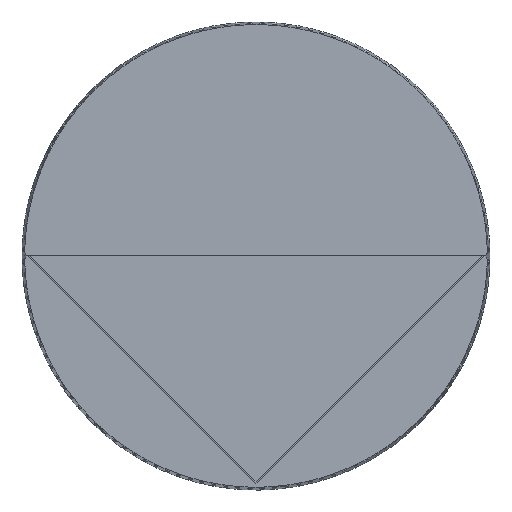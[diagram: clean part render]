
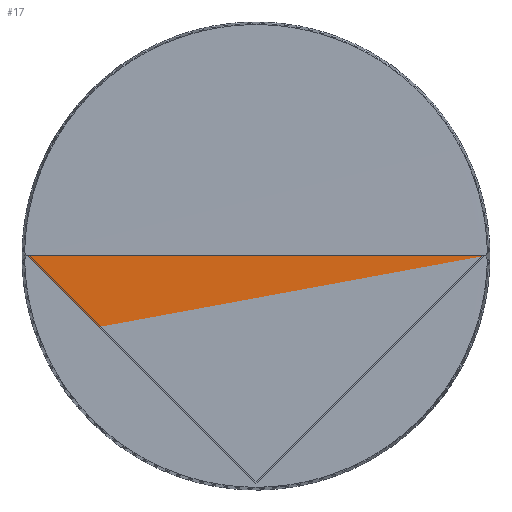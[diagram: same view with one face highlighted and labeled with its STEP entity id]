
A CAD part, top view. The second image highlights one B-rep face of the part: STEP entity #17.
In plain terms, the highlighted free-form (B-spline) face has degree [3, 2] with [4, 5] control points.
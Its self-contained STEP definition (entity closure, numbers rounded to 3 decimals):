
#17=ADVANCED_FACE('',(#1000),#18107,.T.);
#1000=FACE_OUTER_BOUND('',#1983,.T.);
#1983=EDGE_LOOP('',(#2974,#2975,#2976,#2977));
#2974=ORIENTED_EDGE('',*,*,#9275,.F.);
#2975=ORIENTED_EDGE('',*,*,#9270,.T.);
#2976=ORIENTED_EDGE('',*,*,#9276,.T.);
#2977=ORIENTED_EDGE('',*,*,#12405,.F.);
#9270=EDGE_CURVE('',#15575,#15574,#14700,.T.);
#9275=EDGE_CURVE('',#15575,#17733,#14705,.T.);
#9276=EDGE_CURVE('',#15574,#17734,#14706,.T.);
#12405=EDGE_CURVE('',#17733,#17734,#15559,.T.);
#14700=(
BOUNDED_CURVE()
B_SPLINE_CURVE(3,(#118511,#118512,#118513,#118514),.UNSPECIFIED.,.F.,.F.)
B_SPLINE_CURVE_WITH_KNOTS((4,4),(79.568,79.815),
 .UNSPECIFIED.)
CURVE()
GEOMETRIC_REPRESENTATION_ITEM()
RATIONAL_B_SPLINE_CURVE((1.,0.996,0.996,1.))
REPRESENTATION_ITEM('')
);
#14705=(
BOUNDED_CURVE()
B_SPLINE_CURVE(2,(#118566,#118567,#118568,#118569,#118570),
 .UNSPECIFIED.,.F.,.F.)
B_SPLINE_CURVE_WITH_KNOTS((3,2,3),(0.,84.855,169.71),
 .UNSPECIFIED.)
CURVE()
GEOMETRIC_REPRESENTATION_ITEM()
RATIONAL_B_SPLINE_CURVE((1.,0.707,1.,0.707,1.))
REPRESENTATION_ITEM('')
);
#14706=(
BOUNDED_CURVE()
B_SPLINE_CURVE(2,(#118571,#118572,#118573,#118574,#118575),
 .UNSPECIFIED.,.F.,.F.)
B_SPLINE_CURVE_WITH_KNOTS((3,2,3),(0.,84.855,169.71),
 .UNSPECIFIED.)
CURVE()
GEOMETRIC_REPRESENTATION_ITEM()
RATIONAL_B_SPLINE_CURVE((1.,0.707,1.,0.707,1.))
REPRESENTATION_ITEM('')
);
#15559=(
BOUNDED_CURVE()
B_SPLINE_CURVE(3,(#154821,#154822,#154823,#154824),.UNSPECIFIED.,.F.,.F.)
B_SPLINE_CURVE_WITH_KNOTS((4,4),(79.568,79.815),
 .UNSPECIFIED.)
CURVE()
GEOMETRIC_REPRESENTATION_ITEM()
RATIONAL_B_SPLINE_CURVE((1.,0.996,0.996,1.))
REPRESENTATION_ITEM('')
);
#15574=VERTEX_POINT('',#116328);
#15575=VERTEX_POINT('',#116329);
#17733=VERTEX_POINT('',#118487);
#17734=VERTEX_POINT('',#118488);
#18107=(
BOUNDED_SURFACE()
B_SPLINE_SURFACE(3,2,((#59457,#59458,#59459,#59460,#59461),(#59462,#59463,
#59464,#59465,#59466),(#59467,#59468,#59469,#59470,#59471),(#59472,#59473,
#59474,#59475,#59476)),.UNSPECIFIED.,.F.,.F.,.F.)
B_SPLINE_SURFACE_WITH_KNOTS((4,4),(3,2,3),(79.568,79.815),
(0.,84.855,169.71),.UNSPECIFIED.)
GEOMETRIC_REPRESENTATION_ITEM()
RATIONAL_B_SPLINE_SURFACE(((1.,0.707,1.,
0.707,1.),(0.996,0.705,
0.996,0.705,0.996),(0.996,
0.705,0.996,0.705,0.996),
(1.,0.707,1.,0.707,
1.)))
REPRESENTATION_ITEM('')
SURFACE()
);
#59457=CARTESIAN_POINT('',(291.415,0.,108.527));
#59458=CARTESIAN_POINT('',(291.415,-52.409,108.527));
#59459=CARTESIAN_POINT('',(343.824,-52.409,108.527));
#59460=CARTESIAN_POINT('',(396.233,-52.409,108.527));
#59461=CARTESIAN_POINT('',(396.233,0.,108.527));
#59462=CARTESIAN_POINT('',(291.34,0.,108.562));
#59463=CARTESIAN_POINT('',(291.34,-52.483,108.562));
#59464=CARTESIAN_POINT('',(343.824,-52.483,108.562));
#59465=CARTESIAN_POINT('',(396.308,-52.483,108.562));
#59466=CARTESIAN_POINT('',(396.308,0.,108.562));
#59467=CARTESIAN_POINT('',(291.262,0.,108.589));
#59468=CARTESIAN_POINT('',(291.262,-52.561,108.589));
#59469=CARTESIAN_POINT('',(343.824,-52.561,108.589));
#59470=CARTESIAN_POINT('',(396.385,-52.561,108.589));
#59471=CARTESIAN_POINT('',(396.385,0.,108.589));
#59472=CARTESIAN_POINT('',(291.182,0.,108.609));
#59473=CARTESIAN_POINT('',(291.182,-52.641,108.609));
#59474=CARTESIAN_POINT('',(343.824,-52.641,108.609));
#59475=CARTESIAN_POINT('',(396.465,-52.641,108.609));
#59476=CARTESIAN_POINT('',(396.465,0.,108.609));
#116328=CARTESIAN_POINT('',(291.182,0.,108.609));
#116329=CARTESIAN_POINT('',(291.415,0.,108.527));
#118487=CARTESIAN_POINT('',(396.233,0.,108.527));
#118488=CARTESIAN_POINT('',(396.465,0.,108.609));
#118511=CARTESIAN_POINT('',(291.415,0.,108.527));
#118512=CARTESIAN_POINT('',(291.34,0.,108.562));
#118513=CARTESIAN_POINT('',(291.262,0.,108.589));
#118514=CARTESIAN_POINT('',(291.182,0.,108.609));
#118566=CARTESIAN_POINT('',(291.415,0.,108.527));
#118567=CARTESIAN_POINT('',(291.415,-52.409,108.527));
#118568=CARTESIAN_POINT('',(343.824,-52.409,108.527));
#118569=CARTESIAN_POINT('',(396.233,-52.409,108.527));
#118570=CARTESIAN_POINT('',(396.233,0.,108.527));
#118571=CARTESIAN_POINT('',(291.182,0.,108.609));
#118572=CARTESIAN_POINT('',(291.182,-52.641,108.609));
#118573=CARTESIAN_POINT('',(343.824,-52.641,108.609));
#118574=CARTESIAN_POINT('',(396.465,-52.641,108.609));
#118575=CARTESIAN_POINT('',(396.465,0.,108.609));
#154821=CARTESIAN_POINT('',(396.233,0.,108.527));
#154822=CARTESIAN_POINT('',(396.308,0.,108.562));
#154823=CARTESIAN_POINT('',(396.385,0.,108.589));
#154824=CARTESIAN_POINT('',(396.465,0.,108.609));
